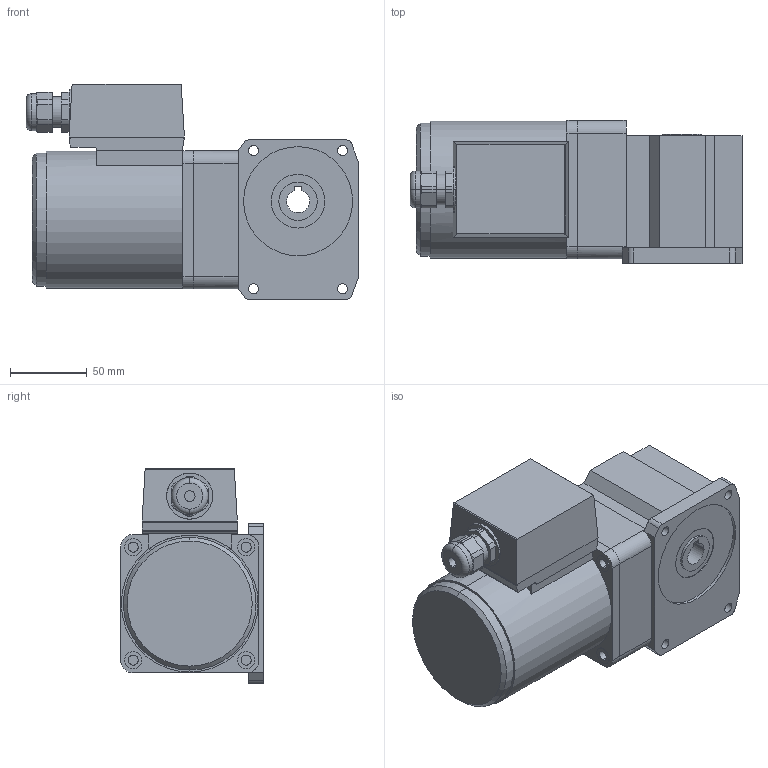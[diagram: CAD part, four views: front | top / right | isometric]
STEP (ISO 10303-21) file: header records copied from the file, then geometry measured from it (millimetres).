
FILE_DESCRIPTION(('starvars output'),'2;1');
FILE_NAME('5RK40GN-AW2TU _ 5GN75RH.stp','13:46:28 2015/05/11',( 'Thomas Industrial Network Germany GmbH'),( 'Thomas Industrial Network Germany GmbH'),'unknown preprocess','ACIS' ,'unknown authorization');
FILE_SCHEMA(('AUTOMOTIVE_DESIGN_CC2 {UNKNOWN IMPLEMENTATION LEVEL}'));
Length unit declared in the file: millimetre
Products named in the file (1): PRODUCT_ID_2139
Bounding box: 216.12 x 93 x 140 mm (x, y, z)
Volume: 1600845.6 mm3; surface area: 109470.7 mm2
Topology: 1 solids, 1 shells, 202 faces, 514 edges, 338 vertices
Faces by surface type: plane 100, cylinder 90, torus 10, cone 2
Entity records: 7294 total; most frequent: CARTESIAN_POINT 1069, ORIENTED_EDGE 1028, DIRECTION 826, EDGE_CURVE 514, VERTEX_POINT 338, VECTOR 300, LINE 300, AXIS2_PLACEMENT_3D 263
